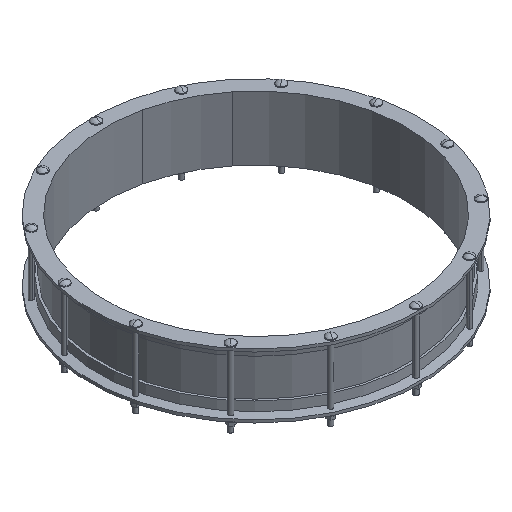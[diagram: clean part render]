
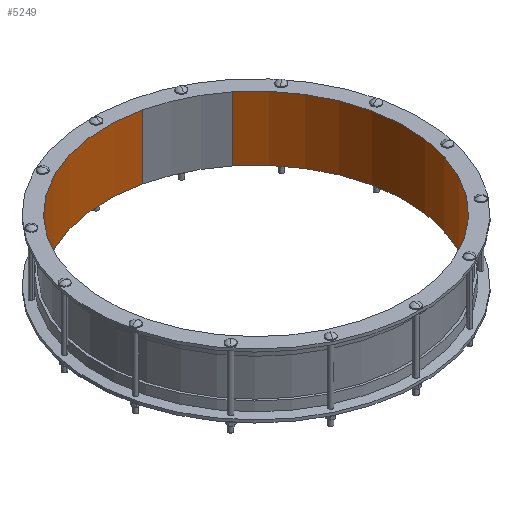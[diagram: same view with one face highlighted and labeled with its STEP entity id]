
A CAD part, isometric view. The second image highlights one B-rep face of the part: STEP entity #5249.
In plain terms, the highlighted cylindrical face has radius 525 mm (diameter 1050 mm), a partial arc.
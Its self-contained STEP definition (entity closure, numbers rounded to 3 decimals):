
#262=CARTESIAN_POINT('',(0.,0.,-112.));
#263=DIRECTION('',(0.,0.,-1.));
#264=DIRECTION('',(0.623,0.782,0.));
#265=AXIS2_PLACEMENT_3D('',#262,#263,#264);
#412=DIRECTION('',(0.,0.,1.));
#413=VECTOR('',#412,224.);
#414=CARTESIAN_POINT('',(116.823,511.837,-112.));
#415=LINE('',#414,#413);
#416=CARTESIAN_POINT('',(0.,0.,112.));
#417=DIRECTION('',(0.,0.,-1.));
#418=DIRECTION('',(0.623,0.782,0.));
#419=AXIS2_PLACEMENT_3D('',#416,#417,#418);
#426=DIRECTION('',(0.,0.,1.));
#427=VECTOR('',#426,224.);
#428=CARTESIAN_POINT('',(327.332,410.462,-112.));
#429=LINE('',#428,#427);
#4846=CARTESIAN_POINT('',(116.823,511.837,-112.));
#4847=CARTESIAN_POINT('',(116.823,511.837,112.));
#4848=VERTEX_POINT('',#4846);
#4849=VERTEX_POINT('',#4847);
#4870=CARTESIAN_POINT('',(327.332,410.462,-112.));
#4871=CARTESIAN_POINT('',(327.332,410.462,112.));
#4872=VERTEX_POINT('',#4870);
#4873=VERTEX_POINT('',#4871);
#5235=CARTESIAN_POINT('',(0.,0.,-123.2));
#5236=DIRECTION('',(0.,0.,1.));
#5237=DIRECTION('',(-0.223,0.975,0.));
#5238=AXIS2_PLACEMENT_3D('',#5235,#5236,#5237);
#5239=CYLINDRICAL_SURFACE('',#5238,525.);
#5241=ORIENTED_EDGE('',*,*,#5240,.F.);
#5242=ORIENTED_EDGE('',*,*,#5228,.F.);
#5244=ORIENTED_EDGE('',*,*,#5243,.T.);
#5246=ORIENTED_EDGE('',*,*,#5245,.T.);
#5247=EDGE_LOOP('',(#5241,#5242,#5244,#5246));
#5248=FACE_OUTER_BOUND('',#5247,.F.);
#5249=ADVANCED_FACE('',(#5248),#5239,.F.);
#266=CIRCLE('',#265,525.);
#420=CIRCLE('',#419,525.);
#5228=EDGE_CURVE('',#4872,#4848,#266,.T.);
#5240=EDGE_CURVE('',#4848,#4849,#415,.T.);
#5243=EDGE_CURVE('',#4872,#4873,#429,.T.);
#5245=EDGE_CURVE('',#4873,#4849,#420,.T.);
